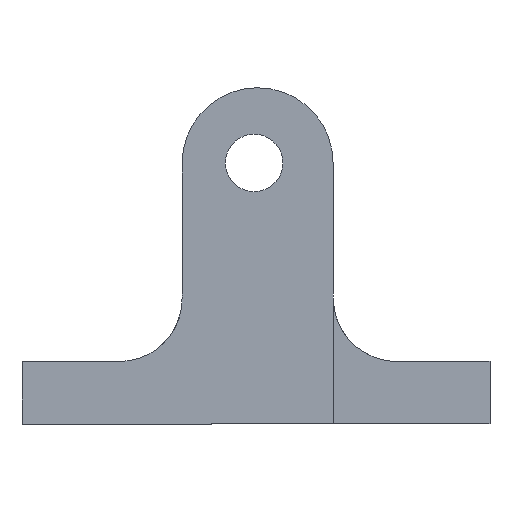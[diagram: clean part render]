
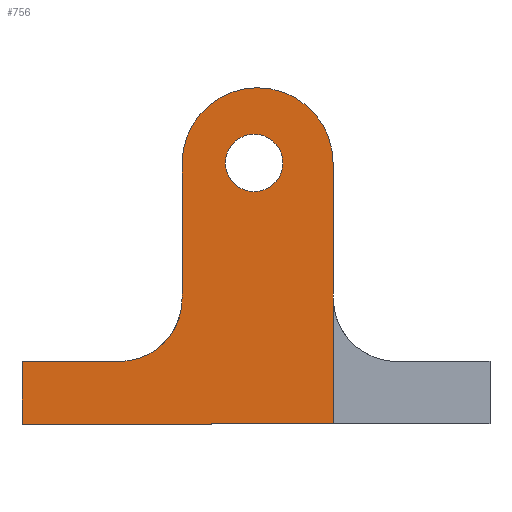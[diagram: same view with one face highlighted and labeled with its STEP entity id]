
A CAD part, front view. The second image highlights one B-rep face of the part: STEP entity #756.
In plain terms, the highlighted planar face has unit normal (0, -1, 0).
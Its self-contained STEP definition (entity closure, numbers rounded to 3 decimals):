
#41=FACE_BOUND('',#141,.T.);
#48=CIRCLE('',#794,2.75);
#58=CIRCLE('',#816,7.227);
#60=CIRCLE('',#820,7.24);
#65=CIRCLE('',#830,7.24);
#66=CIRCLE('',#832,5.981);
#67=CIRCLE('',#833,6.05);
#96=FACE_OUTER_BOUND('',#140,.T.);
#140=EDGE_LOOP('',(#616,#617,#618,#619,#620,#621,#622,#623,#624,#625,#626));
#141=EDGE_LOOP('',(#627));
#199=LINE('',#1174,#275);
#203=LINE('',#1187,#279);
#208=LINE('',#1200,#284);
#220=LINE('',#1365,#296);
#221=LINE('',#1366,#297);
#222=LINE('',#1368,#298);
#275=VECTOR('',#944,10.);
#279=VECTOR('',#954,10.);
#284=VECTOR('',#967,10.);
#296=VECTOR('',#1009,10.);
#297=VECTOR('',#1010,10.);
#298=VECTOR('',#1011,10.);
#322=VERTEX_POINT('',#1096);
#350=VERTEX_POINT('',#1171);
#351=VERTEX_POINT('',#1173);
#356=VERTEX_POINT('',#1184);
#357=VERTEX_POINT('',#1186);
#359=VERTEX_POINT('',#1192);
#361=VERTEX_POINT('',#1198);
#363=VERTEX_POINT('',#1204);
#373=VERTEX_POINT('',#1358);
#374=VERTEX_POINT('',#1362);
#375=VERTEX_POINT('',#1364);
#376=VERTEX_POINT('',#1367);
#396=EDGE_CURVE('',#322,#322,#48,.T.);
#433=EDGE_CURVE('',#351,#350,#199,.T.);
#439=EDGE_CURVE('',#357,#356,#203,.T.);
#443=EDGE_CURVE('',#356,#359,#58,.T.);
#446=EDGE_CURVE('',#359,#361,#208,.T.);
#449=EDGE_CURVE('',#361,#363,#60,.T.);
#464=EDGE_CURVE('',#373,#357,#65,.T.);
#466=EDGE_CURVE('',#363,#374,#66,.T.);
#467=EDGE_CURVE('',#374,#375,#220,.T.);
#468=EDGE_CURVE('',#375,#351,#221,.T.);
#469=EDGE_CURVE('',#350,#376,#222,.T.);
#470=EDGE_CURVE('',#376,#373,#67,.T.);
#616=ORIENTED_EDGE('',*,*,#439,.T.);
#617=ORIENTED_EDGE('',*,*,#443,.T.);
#618=ORIENTED_EDGE('',*,*,#446,.T.);
#619=ORIENTED_EDGE('',*,*,#449,.T.);
#620=ORIENTED_EDGE('',*,*,#466,.T.);
#621=ORIENTED_EDGE('',*,*,#467,.T.);
#622=ORIENTED_EDGE('',*,*,#468,.T.);
#623=ORIENTED_EDGE('',*,*,#433,.T.);
#624=ORIENTED_EDGE('',*,*,#469,.T.);
#625=ORIENTED_EDGE('',*,*,#470,.T.);
#626=ORIENTED_EDGE('',*,*,#464,.T.);
#627=ORIENTED_EDGE('',*,*,#396,.T.);
#725=PLANE('',#831);
#756=ADVANCED_FACE('',(#96,#41),#725,.T.);
#794=AXIS2_PLACEMENT_3D('',#1098,#880,#881);
#816=AXIS2_PLACEMENT_3D('',#1194,#961,#962);
#820=AXIS2_PLACEMENT_3D('',#1206,#973,#974);
#830=AXIS2_PLACEMENT_3D('',#1359,#1002,#1003);
#831=AXIS2_PLACEMENT_3D('',#1361,#1005,#1006);
#832=AXIS2_PLACEMENT_3D('',#1363,#1007,#1008);
#833=AXIS2_PLACEMENT_3D('',#1369,#1012,#1013);
#880=DIRECTION('center_axis',(0.,1.,0.));
#881=DIRECTION('ref_axis',(-1.,0.,0.));
#944=DIRECTION('',(1.,0.,0.001));
#954=DIRECTION('',(0.,0.,1.));
#961=DIRECTION('center_axis',(0.,-1.,0.));
#962=DIRECTION('ref_axis',(-1.,0.,0.004));
#967=DIRECTION('',(0.,0.,-1.));
#973=DIRECTION('center_axis',(0.,-1.,0.));
#974=DIRECTION('ref_axis',(-1.,0.,-0.005));
#1002=DIRECTION('center_axis',(0.,-1.,0.));
#1003=DIRECTION('ref_axis',(-1.,0.,-0.005));
#1005=DIRECTION('center_axis',(0.,-1.,0.));
#1006=DIRECTION('ref_axis',(1.,0.,0.));
#1007=DIRECTION('center_axis',(0.,1.,0.));
#1008=DIRECTION('ref_axis',(-0.003,0.,
-1.));
#1009=DIRECTION('',(-1.,0.,-0.001));
#1010=DIRECTION('',(0.001,0.,-1.));
#1011=DIRECTION('',(-0.001,0.,1.));
#1012=DIRECTION('center_axis',(0.,1.,0.));
#1013=DIRECTION('ref_axis',(-1.,0.,-0.001));
#1096=CARTESIAN_POINT('',(-107.343,-20.,-285.));
#1098=CARTESIAN_POINT('Origin',(-110.093,-20.,-285.));
#1171=CARTESIAN_POINT('',(-102.503,-20.,-309.981));
#1173=CARTESIAN_POINT('',(-132.319,-20.,-310.022));
#1174=CARTESIAN_POINT('',(-132.319,-20.,-310.022));
#1184=CARTESIAN_POINT('',(-102.533,-20.,-285.027));
#1186=CARTESIAN_POINT('',(-102.533,-20.,-297.53));
#1187=CARTESIAN_POINT('',(-102.533,-20.,-297.53));
#1192=CARTESIAN_POINT('',(-116.987,-20.,-285.));
#1194=CARTESIAN_POINT('Origin',(-109.76,-20.,-285.027));
#1198=CARTESIAN_POINT('',(-116.987,-20.,-297.53));
#1200=CARTESIAN_POINT('',(-116.987,-20.,-297.53));
#1204=CARTESIAN_POINT('',(-117.,-20.,-298.));
#1206=CARTESIAN_POINT('Origin',(-109.76,-20.,-297.966));
#1358=CARTESIAN_POINT('',(-102.52,-20.,-297.956));
#1359=CARTESIAN_POINT('Origin',(-109.76,-20.,-297.966));
#1361=CARTESIAN_POINT('Origin',(-160.,-20.,-310.293));
#1362=CARTESIAN_POINT('',(-122.999,-20.,-304.009));
#1363=CARTESIAN_POINT('Origin',(-122.981,-20.,-298.028));
#1364=CARTESIAN_POINT('',(-132.322,-20.,-304.022));
#1365=CARTESIAN_POINT('',(-132.322,-20.,-304.022));
#1366=CARTESIAN_POINT('',(-132.319,-20.,-310.022));
#1367=CARTESIAN_POINT('',(-102.511,-20.,-298.265));
#1368=CARTESIAN_POINT('',(-102.511,-20.,-298.265));
#1369=CARTESIAN_POINT('Origin',(-96.47,-20.,-297.947));
